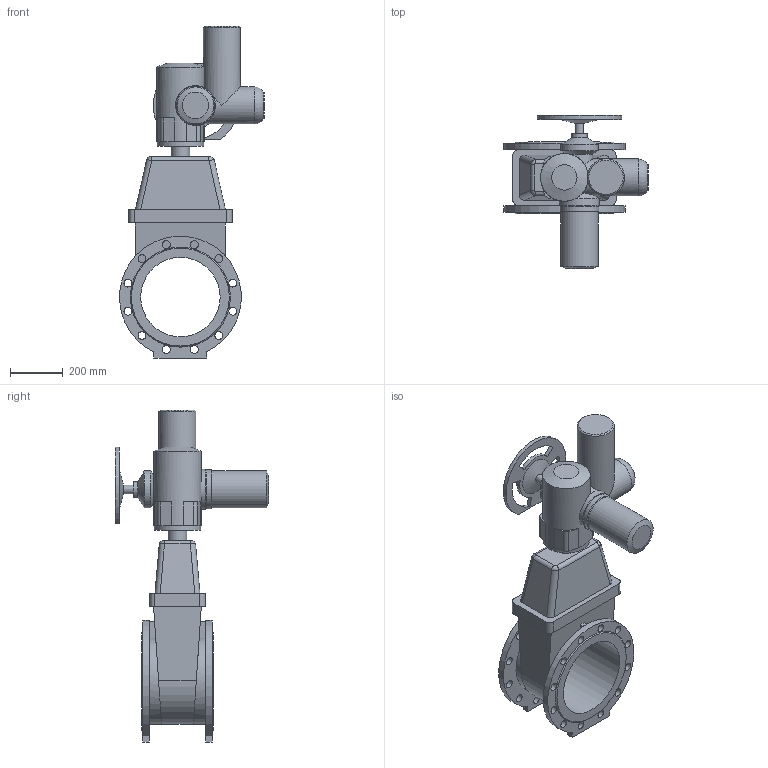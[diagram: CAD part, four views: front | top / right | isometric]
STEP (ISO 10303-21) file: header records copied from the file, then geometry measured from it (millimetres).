
FILE_DESCRIPTION(('STEP AP203'), '1');
FILE_NAME('青溻桄赅 47GVA DN300 PN10_PN16+MT903.A30', '', ('UNSPECIFIED'), ('UNSPECIFIED'), 'ASCON STEP Converter 1.6', 'ASCON Math Kernel', '');
FILE_SCHEMA(('CONFIG_CONTROL_DESIGN'));
Length unit declared in the file: millimetre
Bounding box: 546.28 x 578 x 1254 mm (x, y, z)
Volume: 51163239.8 mm3; surface area: 2168184.9 mm2
Topology: 2 solids, 2 shells, 198 faces, 501 edges, 326 vertices
Faces by surface type: cylinder 92, plane 90, cone 11, bspline 4, torus 1
Full cylindrical faces by diameter (mm): 14 x4, 18 x4, 30 x25, 32 x1, 60 x1, 70 x1, 100 x3, 140 x4, 147 x1, 151 x1, 175 x1, 300 x1
Entity records: 8760 total; most frequent: CARTESIAN_POINT 2468, DIRECTION 955, ORIENTED_EDGE 874, EDGE_CURVE 437, AXIS2_PLACEMENT_3D 374, EDGE_LOOP 342, VERTEX_POINT 323, FACE_BOUND 231
